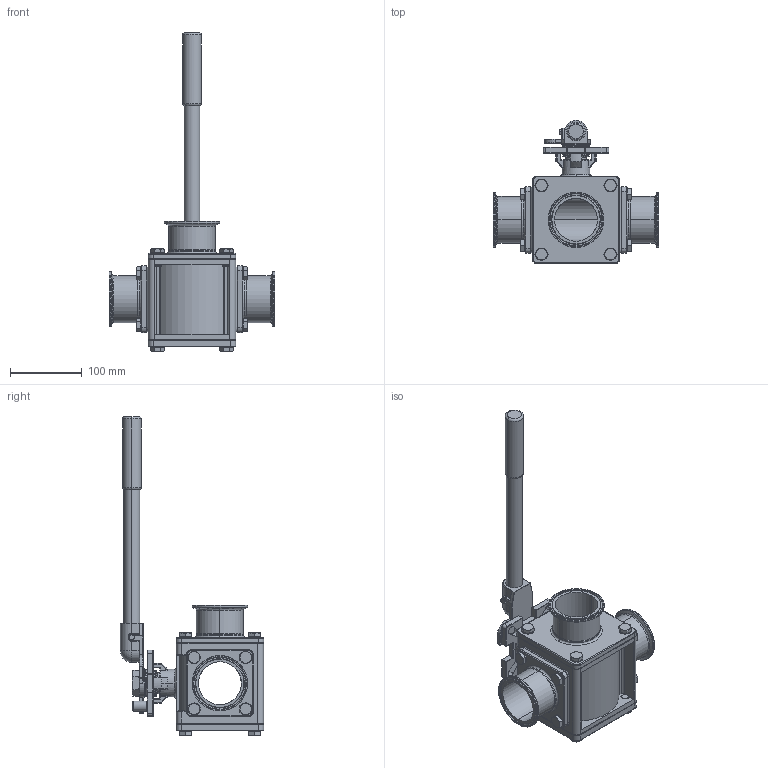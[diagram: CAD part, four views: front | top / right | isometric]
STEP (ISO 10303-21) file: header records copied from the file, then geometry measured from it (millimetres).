
FILE_DESCRIPTION (( 'STEP AP203' ), '1' );
FILE_NAME ('EG93CCC-62.5-T.STEP', '2019-07-02T02:29:53', ( '' ), ( '' ), 'SwSTEP 2.0', 'SolidWorks 2014', '' );
FILE_SCHEMA (( 'CONFIG_CONTROL_DESIGN' ));
Length unit declared in the file: millimetre
Products named in the file (27): 14.HANDLE2.5-1; 9.RING2.5; 18.THINNER NUT2.5; 17.LOCKING TAB2.5; 8.STEM PACKING2.5; 6.THRUST WASHER2.5; 14.HANDLE2.5-4.0-3; 14.HANDLE2.5-2; 13.STEM2.5; 2.3WAY-CAP-C-2.5B; 22.SEAT-R-2.5; 12.3WAY-NUT2.5; 4.SEAT1-2.5; EG93CCC-62.5-T; 21.PLAIN WASHER2.5; 7.O-RING2.5; 3.3WAY-BALL-2.5-T; 22.SEAT-L-2.5; 1.3WAY-BODY2.5; 11.STOP PIN2.5; 16.BOLT2.5; 15.SPRING WASHER2.0-2.5; 10.BEVEL WASHER2.5; 20.SEAT BACK2.5; 5.GASKET2.5; 19.3WAY-CAP2.5; 2.3WAY-CAP-C-2.5S
Assembly tree (60 placements, depth 2):
  EG93CCC-62.5-T
    1.3WAY-BODY2.5
    13.STEM2.5
    6.THRUST WASHER2.5
    7.O-RING2.5
    22.SEAT-L-2.5
    22.SEAT-R-2.5
    4.SEAT1-2.5  x2
    20.SEAT BACK2.5
    5.GASKET2.5  x2
    19.3WAY-CAP2.5
    2.3WAY-CAP-C-2.5B
    2.3WAY-CAP-C-2.5S  x2
    15.SPRING WASHER2.0-2.5  x16
    16.BOLT2.5  x16
    8.STEM PACKING2.5
    9.RING2.5
    10.BEVEL WASHER2.5  x2
    17.LOCKING TAB2.5
    18.THINNER NUT2.5
    21.PLAIN WASHER2.5
    14.HANDLE2.5-1
    14.HANDLE2.5-2
    14.HANDLE2.5-4.0-3
    12.3WAY-NUT2.5
    11.STOP PIN2.5
    3.3WAY-BALL-2.5-T
Bounding box: 231 x 199.86 x 444.7 mm (x, y, z)
Volume: 1712226.3 mm3; surface area: 570157 mm2
Topology: 61 solids, 61 shells, 1600 faces, 3594 edges, 2117 vertices
Faces by surface type: cylinder 574, plane 419, cone 270, torus 225, sphere 59, bspline 53
Entity records: 38531 total; most frequent: CARTESIAN_POINT 9083, DIRECTION 5921, ORIENTED_EDGE 5074, EDGE_CURVE 2537, AXIS2_PLACEMENT_3D 2511, VERTEX_POINT 1498, CIRCLE 1387, EDGE_LOOP 1229
